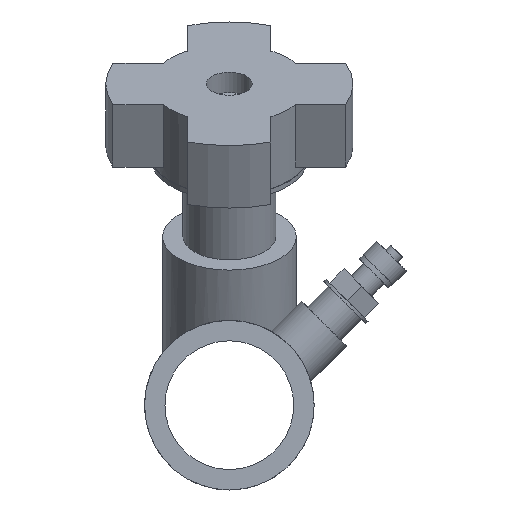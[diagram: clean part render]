
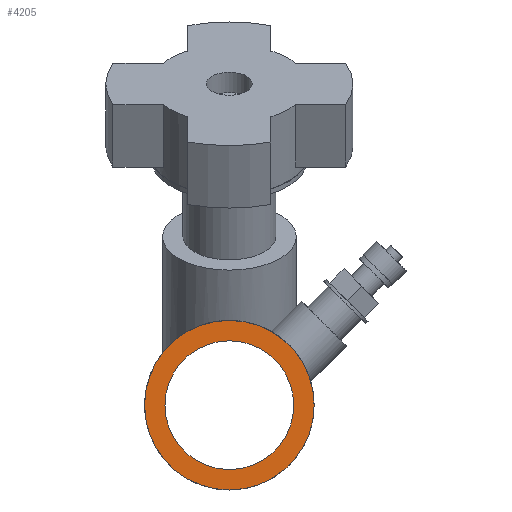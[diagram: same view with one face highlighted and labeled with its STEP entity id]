
A CAD part, left-side view. The second image highlights one B-rep face of the part: STEP entity #4205.
In plain terms, the highlighted planar face has unit normal (-1, 0, 0).
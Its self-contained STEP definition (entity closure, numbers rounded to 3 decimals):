
#1825 = CYLINDRICAL_SURFACE('',#1826,0.715);
#1826 = AXIS2_PLACEMENT_3D('',#1827,#1828,#1829);
#1827 = CARTESIAN_POINT('',(-2.221,0.,0.));
#1828 = DIRECTION('',(1.,0.,0.));
#1829 = DIRECTION('',(0.,-1.,0.));
#1850 = VERTEX_POINT('',#1851);
#1851 = CARTESIAN_POINT('',(0.,0.715,0.));
#1871 = EDGE_CURVE('',#1850,#1850,#1872,.T.);
#1872 = SURFACE_CURVE('',#1873,(#1878,#1885),.PCURVE_S1.);
#1873 = CIRCLE('',#1874,0.715);
#1874 = AXIS2_PLACEMENT_3D('',#1875,#1876,#1877);
#1875 = CARTESIAN_POINT('',(0.,0.,0.));
#1876 = DIRECTION('',(1.,0.,0.));
#1877 = DIRECTION('',(0.,-1.,0.));
#1878 = PCURVE('',#1825,#1879);
#1879 = DEFINITIONAL_REPRESENTATION('',(#1880),#1884);
#1880 = LINE('',#1881,#1882);
#1881 = CARTESIAN_POINT('',(0.,2.221));
#1882 = VECTOR('',#1883,1.);
#1883 = DIRECTION('',(1.,0.));
#1884 = ( GEOMETRIC_REPRESENTATION_CONTEXT(2) 
PARAMETRIC_REPRESENTATION_CONTEXT() REPRESENTATION_CONTEXT('2D SPACE',''
  ) );
#1885 = PCURVE('',#1886,#1891);
#1886 = PLANE('',#1887);
#1887 = AXIS2_PLACEMENT_3D('',#1888,#1889,#1890);
#1888 = CARTESIAN_POINT('',(0.,0.,0.));
#1889 = DIRECTION('',(-1.,0.,0.));
#1890 = DIRECTION('',(0.,0.,1.));
#1891 = DEFINITIONAL_REPRESENTATION('',(#1892),#1900);
#1892 = ( BOUNDED_CURVE() B_SPLINE_CURVE(2,(#1893,#1894,#1895,#1896,
#1897,#1898,#1899),.UNSPECIFIED.,.T.,.F.) B_SPLINE_CURVE_WITH_KNOTS((1,2
    ,2,2,2,1),(-2.094,0.,2.094,4.189,
6.283,8.378),.UNSPECIFIED.) CURVE() 
GEOMETRIC_REPRESENTATION_ITEM() RATIONAL_B_SPLINE_CURVE((1.,0.5,1.,0.5,
1.,0.5,1.)) REPRESENTATION_ITEM('') );
#1893 = CARTESIAN_POINT('',(0.,-0.715));
#1894 = CARTESIAN_POINT('',(-1.238,-0.715));
#1895 = CARTESIAN_POINT('',(-0.619,0.357));
#1896 = CARTESIAN_POINT('',(0.,1.43));
#1897 = CARTESIAN_POINT('',(0.619,0.357));
#1898 = CARTESIAN_POINT('',(1.238,-0.715));
#1899 = CARTESIAN_POINT('',(0.,-0.715));
#1900 = ( GEOMETRIC_REPRESENTATION_CONTEXT(2) 
PARAMETRIC_REPRESENTATION_CONTEXT() REPRESENTATION_CONTEXT('2D SPACE',''
  ) );
#3140 = CYLINDRICAL_SURFACE('',#3141,0.942);
#3141 = AXIS2_PLACEMENT_3D('',#3142,#3143,#3144);
#3142 = CARTESIAN_POINT('',(0.,0.,0.));
#3143 = DIRECTION('',(1.,0.,0.));
#3144 = DIRECTION('',(0.,-1.,0.));
#3277 = VERTEX_POINT('',#3278);
#3278 = CARTESIAN_POINT('',(0.,-0.942,0.));
#3298 = EDGE_CURVE('',#3277,#3277,#3299,.T.);
#3299 = SURFACE_CURVE('',#3300,(#3305,#3312),.PCURVE_S1.);
#3300 = CIRCLE('',#3301,0.942);
#3301 = AXIS2_PLACEMENT_3D('',#3302,#3303,#3304);
#3302 = CARTESIAN_POINT('',(0.,0.,0.));
#3303 = DIRECTION('',(-1.,0.,0.));
#3304 = DIRECTION('',(0.,-1.,0.));
#3305 = PCURVE('',#3140,#3306);
#3306 = DEFINITIONAL_REPRESENTATION('',(#3307),#3311);
#3307 = LINE('',#3308,#3309);
#3308 = CARTESIAN_POINT('',(6.283,0.));
#3309 = VECTOR('',#3310,1.);
#3310 = DIRECTION('',(-1.,0.));
#3311 = ( GEOMETRIC_REPRESENTATION_CONTEXT(2) 
PARAMETRIC_REPRESENTATION_CONTEXT() REPRESENTATION_CONTEXT('2D SPACE',''
  ) );
#3312 = PCURVE('',#1886,#3313);
#3313 = DEFINITIONAL_REPRESENTATION('',(#3314),#3318);
#3314 = CIRCLE('',#3315,0.942);
#3315 = AXIS2_PLACEMENT_2D('',#3316,#3317);
#3316 = CARTESIAN_POINT('',(0.,0.));
#3317 = DIRECTION('',(0.,-1.));
#3318 = ( GEOMETRIC_REPRESENTATION_CONTEXT(2) 
PARAMETRIC_REPRESENTATION_CONTEXT() REPRESENTATION_CONTEXT('2D SPACE',''
  ) );
#4205 = ADVANCED_FACE('',(#4206,#4209),#1886,.T.);
#4206 = FACE_BOUND('',#4207,.T.);
#4207 = EDGE_LOOP('',(#4208));
#4208 = ORIENTED_EDGE('',*,*,#1871,.T.);
#4209 = FACE_BOUND('',#4210,.T.);
#4210 = EDGE_LOOP('',(#4211));
#4211 = ORIENTED_EDGE('',*,*,#3298,.T.);
